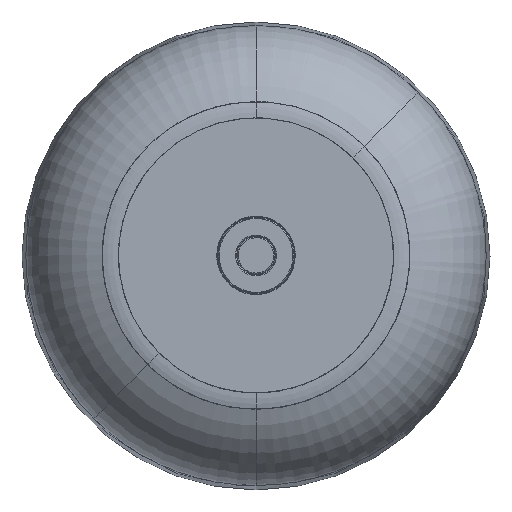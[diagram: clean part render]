
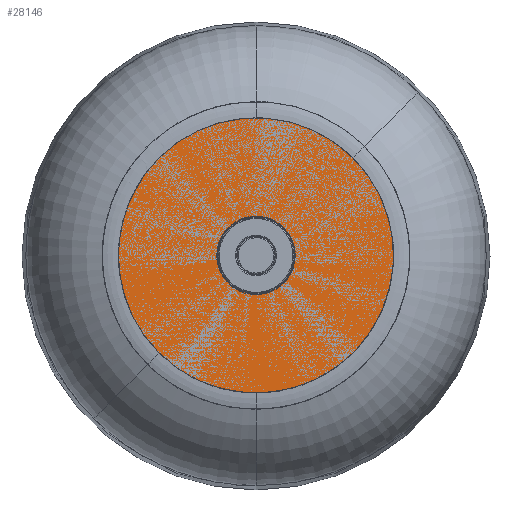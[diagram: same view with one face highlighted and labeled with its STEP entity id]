
A CAD part, top view. The second image highlights one B-rep face of the part: STEP entity #28146.
In plain terms, the highlighted planar face has unit normal (0, 0, 1).
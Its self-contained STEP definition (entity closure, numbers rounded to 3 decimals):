
#28085=CARTESIAN_POINT('Vertex',(-7.25,0.,60.)) ;
#28088=CARTESIAN_POINT('Axis2P3D Location',(0.,0.,60.)) ;
#28092=CARTESIAN_POINT('Vertex',(7.25,0.,60.)) ;
#28107=CARTESIAN_POINT('Axis2P3D Location',(0.,0.,60.)) ;
#28119=CARTESIAN_POINT('Axis2P3D Location',(0.,0.,60.)) ;
#28124=CARTESIAN_POINT('Axis2P3D Location',(0.,0.,60.)) ;
#28128=CARTESIAN_POINT('Vertex',(0.,-25.702,60.)) ;
#28130=CARTESIAN_POINT('Vertex',(0.,25.702,60.)) ;
#28133=CARTESIAN_POINT('Axis2P3D Location',(0.,0.,60.)) ;
#28089=DIRECTION('Axis2P3D Direction',(0.,0.,1.)) ;
#28108=DIRECTION('Axis2P3D Direction',(0.,0.,1.)) ;
#28120=DIRECTION('Axis2P3D Direction',(0.,0.,1.)) ;
#28121=DIRECTION('Axis2P3D XDirection',(1.,0.,0.)) ;
#28125=DIRECTION('Axis2P3D Direction',(0.,0.,1.)) ;
#28134=DIRECTION('Axis2P3D Direction',(0.,0.,1.)) ;
#28090=AXIS2_PLACEMENT_3D('Circle Axis2P3D',#28088,#28089,$) ;
#28109=AXIS2_PLACEMENT_3D('Circle Axis2P3D',#28107,#28108,$) ;
#28122=AXIS2_PLACEMENT_3D('Plane Axis2P3D',#28119,#28120,#28121) ;
#28126=AXIS2_PLACEMENT_3D('Circle Axis2P3D',#28124,#28125,$) ;
#28135=AXIS2_PLACEMENT_3D('Circle Axis2P3D',#28133,#28134,$) ;
#28139=ORIENTED_EDGE('',*,*,#28132,.T.) ;
#28140=ORIENTED_EDGE('',*,*,#28137,.T.) ;
#28143=ORIENTED_EDGE('',*,*,#28111,.F.) ;
#28144=ORIENTED_EDGE('',*,*,#28094,.F.) ;
#28145=FACE_BOUND('',#28142,.T.) ;
#28146=ADVANCED_FACE('\X2\96F64EF651E04F554F53\X0\',(#28141,#28145),#28123,.T.) ;
#28091=CIRCLE('generated circle',#28090,7.25) ;
#28110=CIRCLE('generated circle',#28109,7.25) ;
#28127=CIRCLE('generated circle',#28126,25.702) ;
#28136=CIRCLE('generated circle',#28135,25.702) ;
#28094=EDGE_CURVE('',#28086,#28093,#28091,.T.) ;
#28111=EDGE_CURVE('',#28093,#28086,#28110,.T.) ;
#28132=EDGE_CURVE('',#28129,#28131,#28127,.T.) ;
#28137=EDGE_CURVE('',#28131,#28129,#28136,.T.) ;
#28138=EDGE_LOOP('',(#28139,#28140)) ;
#28142=EDGE_LOOP('',(#28143,#28144)) ;
#28141=FACE_OUTER_BOUND('',#28138,.T.) ;
#28123=PLANE('',#28122) ;
#28086=VERTEX_POINT('',#28085) ;
#28093=VERTEX_POINT('',#28092) ;
#28129=VERTEX_POINT('',#28128) ;
#28131=VERTEX_POINT('',#28130) ;
